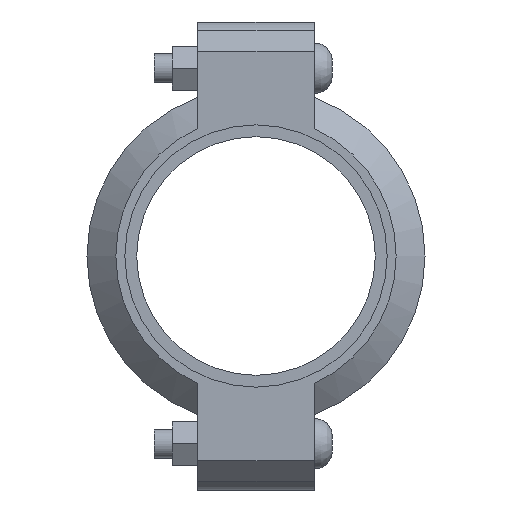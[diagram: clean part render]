
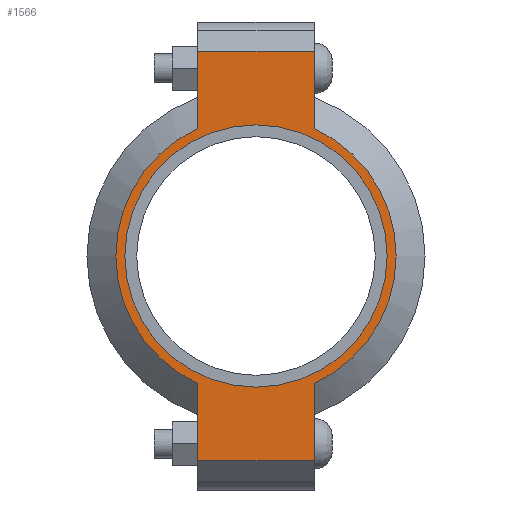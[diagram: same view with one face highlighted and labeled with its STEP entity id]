
A CAD part, left-side view. The second image highlights one B-rep face of the part: STEP entity #1566.
In plain terms, the highlighted planar face has unit normal (-1, 0, 0) as drawn and (0, 0, 1) by its records, which use the part's own axes.
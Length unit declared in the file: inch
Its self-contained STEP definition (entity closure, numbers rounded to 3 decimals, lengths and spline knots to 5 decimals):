
#190=LINE('',#2733,#283);
#198=LINE('',#2769,#291);
#205=LINE('',#2790,#298);
#214=LINE('',#2822,#307);
#215=LINE('',#2826,#308);
#216=LINE('',#2828,#309);
#283=VECTOR('',#2225,0.3937);
#291=VECTOR('',#2241,0.3937);
#298=VECTOR('',#2260,0.3937);
#307=VECTOR('',#2285,0.3937);
#308=VECTOR('',#2290,0.3937);
#309=VECTOR('',#2291,0.3937);
#365=FACE_BOUND('',#543,.T.);
#437=FACE_OUTER_BOUND('',#542,.T.);
#542=EDGE_LOOP('',(#1307,#1308,#1309,#1310,#1311,#1312,#1313,#1314));
#543=EDGE_LOOP('',(#1315));
#615=CIRCLE('',#1785,2.25);
#641=CIRCLE('',#1844,2.405);
#642=CIRCLE('',#1845,2.405);
#707=VERTEX_POINT('',#2549);
#750=VERTEX_POINT('',#2730);
#751=VERTEX_POINT('',#2732);
#762=VERTEX_POINT('',#2764);
#763=VERTEX_POINT('',#2768);
#770=VERTEX_POINT('',#2787);
#771=VERTEX_POINT('',#2789);
#781=VERTEX_POINT('',#2825);
#782=VERTEX_POINT('',#2827);
#863=EDGE_CURVE('',#707,#707,#615,.T.);
#924=EDGE_CURVE('',#751,#750,#190,.T.);
#938=EDGE_CURVE('',#763,#762,#198,.T.);
#948=EDGE_CURVE('',#771,#770,#205,.T.);
#963=EDGE_CURVE('',#763,#750,#214,.T.);
#964=EDGE_CURVE('',#762,#771,#641,.T.);
#965=EDGE_CURVE('',#781,#770,#215,.T.);
#966=EDGE_CURVE('',#781,#782,#216,.T.);
#967=EDGE_CURVE('',#782,#751,#642,.T.);
#1307=ORIENTED_EDGE('',*,*,#963,.F.);
#1308=ORIENTED_EDGE('',*,*,#938,.T.);
#1309=ORIENTED_EDGE('',*,*,#964,.T.);
#1310=ORIENTED_EDGE('',*,*,#948,.T.);
#1311=ORIENTED_EDGE('',*,*,#965,.F.);
#1312=ORIENTED_EDGE('',*,*,#966,.T.);
#1313=ORIENTED_EDGE('',*,*,#967,.T.);
#1314=ORIENTED_EDGE('',*,*,#924,.T.);
#1315=ORIENTED_EDGE('',*,*,#863,.T.);
#1408=PLANE('',#1843);
#1566=ADVANCED_FACE('',(#437,#365),#1408,.T.);
#1785=AXIS2_PLACEMENT_3D('',#2551,#2101,#2102);
#1843=AXIS2_PLACEMENT_3D('',#2823,#2286,#2287);
#1844=AXIS2_PLACEMENT_3D('',#2824,#2288,#2289);
#1845=AXIS2_PLACEMENT_3D('',#2829,#2292,#2293);
#2101=DIRECTION('center_axis',(0.,0.,-1.));
#2102=DIRECTION('ref_axis',(-1.,0.,0.));
#2225=DIRECTION('',(-1.,0.,0.));
#2241=DIRECTION('',(1.,0.,0.));
#2260=DIRECTION('',(1.,0.,0.));
#2285=DIRECTION('',(0.,1.,0.));
#2286=DIRECTION('center_axis',(0.,0.,1.));
#2287=DIRECTION('ref_axis',(1.,0.,0.));
#2288=DIRECTION('center_axis',(0.,0.,1.));
#2289=DIRECTION('ref_axis',(-1.,0.,0.));
#2290=DIRECTION('',(0.,-1.,0.));
#2291=DIRECTION('',(-1.,0.,0.));
#2292=DIRECTION('center_axis',(0.,0.,1.));
#2293=DIRECTION('ref_axis',(-1.,0.,0.));
#2549=CARTESIAN_POINT('',(2.25,0.,1.065));
#2551=CARTESIAN_POINT('Origin',(0.,0.,1.065));
#2730=CARTESIAN_POINT('',(-3.515,1.,1.065));
#2732=CARTESIAN_POINT('',(-2.18724,1.,1.065));
#2733=CARTESIAN_POINT('',(-4.015,1.,1.065));
#2764=CARTESIAN_POINT('',(-2.18724,-1.,1.065));
#2768=CARTESIAN_POINT('',(-3.515,-1.,1.065));
#2769=CARTESIAN_POINT('',(4.015,-1.,1.065));
#2787=CARTESIAN_POINT('',(3.515,-1.,1.065));
#2789=CARTESIAN_POINT('',(2.18724,-1.,1.065));
#2790=CARTESIAN_POINT('',(4.015,-1.,1.065));
#2822=CARTESIAN_POINT('',(-3.515,0.5,1.065));
#2823=CARTESIAN_POINT('Origin',(0.,0.,1.065));
#2824=CARTESIAN_POINT('Origin',(0.,0.,1.065));
#2825=CARTESIAN_POINT('',(3.515,1.,1.065));
#2826=CARTESIAN_POINT('',(3.515,-0.5,1.065));
#2827=CARTESIAN_POINT('',(2.18724,1.,1.065));
#2828=CARTESIAN_POINT('',(-4.015,1.,1.065));
#2829=CARTESIAN_POINT('Origin',(0.,0.,1.065));
